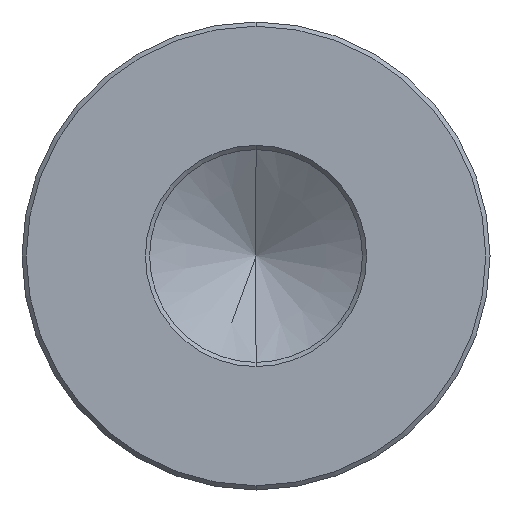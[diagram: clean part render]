
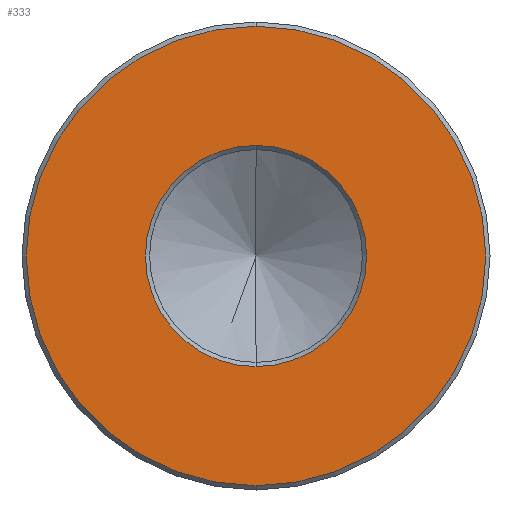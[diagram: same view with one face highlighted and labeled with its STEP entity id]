
A CAD part, front view. The second image highlights one B-rep face of the part: STEP entity #333.
In plain terms, the highlighted planar face has unit normal (0, -1, 0).
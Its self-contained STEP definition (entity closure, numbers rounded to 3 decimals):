
#42 = CIRCLE ( 'NONE', #236, 5.2 ) ;
#61 = VERTEX_POINT ( 'NONE', #669 ) ;
#65 = AXIS2_PLACEMENT_3D ( 'NONE', #308, #759, #579 ) ;
#86 = AXIS2_PLACEMENT_3D ( 'NONE', #568, #507, #377 ) ;
#93 = CARTESIAN_POINT ( 'NONE',  ( 0., 0., 0. ) ) ;
#112 = FACE_BOUND ( 'NONE', #469, .T. ) ;
#180 = DIRECTION ( 'NONE',  ( 0., 0., 1. ) ) ;
#198 = CIRCLE ( 'NONE', #651, 5.2 ) ;
#199 = EDGE_CURVE ( 'NONE', #61, #817, #42, .T. ) ;
#232 = CARTESIAN_POINT ( 'NONE',  ( 0., 0., 10.8 ) ) ;
#234 = DIRECTION ( 'NONE',  ( 0., -1., 0. ) ) ;
#236 = AXIS2_PLACEMENT_3D ( 'NONE', #93, #681, #426 ) ;
#238 = VERTEX_POINT ( 'NONE', #232 ) ;
#266 = CIRCLE ( 'NONE', #566, 10.8 ) ;
#293 = EDGE_LOOP ( 'NONE', ( #627, #587 ) ) ;
#308 = CARTESIAN_POINT ( 'NONE',  ( 0., 0., 0. ) ) ;
#333 = ADVANCED_FACE ( 'NONE', ( #112, #787 ), #379, .F. ) ;
#377 = DIRECTION ( 'NONE',  ( 0., 0., 1. ) ) ;
#379 = PLANE ( 'NONE',  #86 ) ;
#397 = EDGE_CURVE ( 'NONE', #238, #763, #266, .T. ) ;
#408 = CARTESIAN_POINT ( 'NONE',  ( 0., 0., -10.8 ) ) ;
#421 = EDGE_CURVE ( 'NONE', #763, #238, #723, .T. ) ;
#426 = DIRECTION ( 'NONE',  ( 0., 0., 1. ) ) ;
#440 = EDGE_CURVE ( 'NONE', #817, #61, #198, .T. ) ;
#463 = ORIENTED_EDGE ( 'NONE', *, *, #440, .T. ) ;
#469 = EDGE_LOOP ( 'NONE', ( #754, #463 ) ) ;
#507 = DIRECTION ( 'NONE',  ( 0., 1., 0. ) ) ;
#565 = CARTESIAN_POINT ( 'NONE',  ( 0., 0., 0. ) ) ;
#566 = AXIS2_PLACEMENT_3D ( 'NONE', #565, #234, #699 ) ;
#568 = CARTESIAN_POINT ( 'NONE',  ( 0., 0., 0. ) ) ;
#579 = DIRECTION ( 'NONE',  ( 0., 0., 1. ) ) ;
#587 = ORIENTED_EDGE ( 'NONE', *, *, #421, .T. ) ;
#627 = ORIENTED_EDGE ( 'NONE', *, *, #397, .T. ) ;
#644 = CARTESIAN_POINT ( 'NONE',  ( 0., 0., 0. ) ) ;
#651 = AXIS2_PLACEMENT_3D ( 'NONE', #644, #836, #180 ) ;
#669 = CARTESIAN_POINT ( 'NONE',  ( 0., 0., -5.2 ) ) ;
#681 = DIRECTION ( 'NONE',  ( 0., 1., 0. ) ) ;
#699 = DIRECTION ( 'NONE',  ( 0., 0., 1. ) ) ;
#723 = CIRCLE ( 'NONE', #65, 10.8 ) ;
#748 = CARTESIAN_POINT ( 'NONE',  ( 0., 0., 5.2 ) ) ;
#754 = ORIENTED_EDGE ( 'NONE', *, *, #199, .T. ) ;
#759 = DIRECTION ( 'NONE',  ( 0., -1., 0. ) ) ;
#763 = VERTEX_POINT ( 'NONE', #408 ) ;
#787 = FACE_OUTER_BOUND ( 'NONE', #293, .T. ) ;
#817 = VERTEX_POINT ( 'NONE', #748 ) ;
#836 = DIRECTION ( 'NONE',  ( 0., 1., 0. ) ) ;
